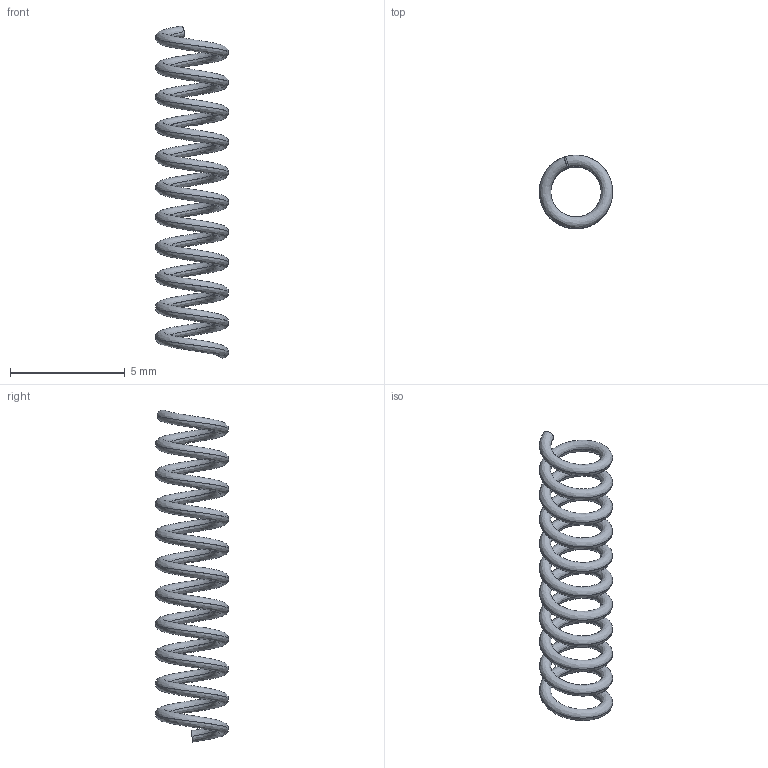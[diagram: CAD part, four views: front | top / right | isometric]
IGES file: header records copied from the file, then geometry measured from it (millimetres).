
Start section: SolidWorks IGES FILE using analytic representation for surfaces
Global section: file name: C:\Documents and Settings\lecoutey\Bureau\GP 2075\2075.120.00.IGS; native system: SolidWorks 2004 by SolidWorks Corporation; preprocessor: Version 5.3; author: lecoutey; date: 050329.161244; units: millimetre
Bounding box: 3.2 x 3.2 x 14.49 mm (x, y, z)
Surface area: 144.6 mm2 (no closed solid volume)
Topology: 0 solids, 0 shells, 4 faces, 40 edges, 40 vertices
Faces by surface type: bspline 4
